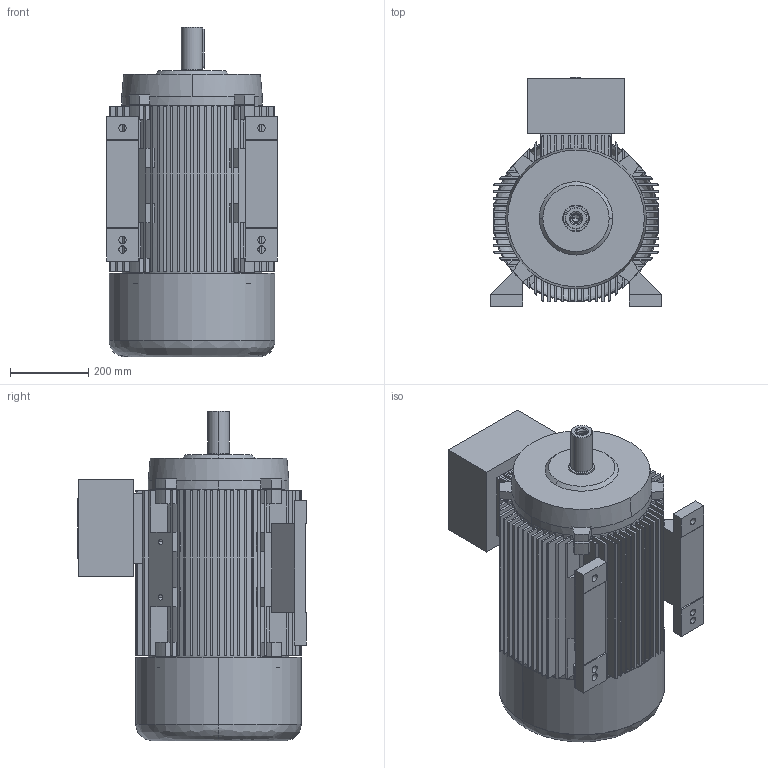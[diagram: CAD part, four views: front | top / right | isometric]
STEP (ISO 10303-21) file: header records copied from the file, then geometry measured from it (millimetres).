
FILE_DESCRIPTION (( 'STEP AP203' ), '1' );
FILE_NAME ('20.17507_A 7AT 225S&M -2 B3.STEP', '2018-04-09T10:02:52', ( '' ), ( '' ), 'SwSTEP 2.0', 'SolidWorks 2017', '' );
FILE_SCHEMA (( 'CONFIG_CONTROL_DESIGN' ));
Length unit declared in the file: millimetre
Products named in the file (1): 20.17507_A 7AT 225S&M -2 B3
Bounding box: 436 x 586 x 845 mm (x, y, z)
Volume: 36234939.2 mm3; surface area: 5277361.6 mm2
Topology: 9 solids, 9 shells, 828 faces, 2223 edges, 1461 vertices
Faces by surface type: plane 655, cylinder 122, cone 38, bspline 13
Entity records: 26435 total; most frequent: CARTESIAN_POINT 5332, ORIENTED_EDGE 4410, DIRECTION 4299, EDGE_CURVE 2205, LINE 1659, VECTOR 1659, VERTEX_POINT 1461, AXIS2_PLACEMENT_3D 1320
